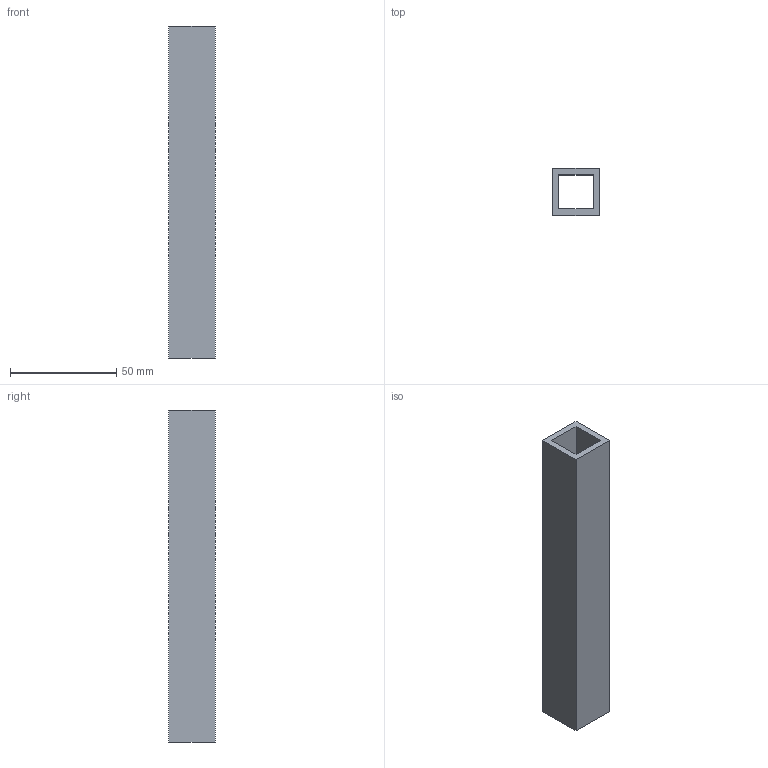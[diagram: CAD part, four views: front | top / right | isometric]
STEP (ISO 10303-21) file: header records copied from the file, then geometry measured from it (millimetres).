
FILE_DESCRIPTION(('Open CASCADE Model'),'2;1');
FILE_NAME('Open CASCADE Shape Model','2026-10-04T01:02:29',('Author'),( 'Open CASCADE'),'Open CASCADE STEP processor 8.0','Open CASCADE 8.0' ,'Unknown');
FILE_SCHEMA(('AUTOMOTIVE_DESIGN { 1 0 10303 214 1 1 1 1 }'));
Length unit declared in the file: millimetre
Products named in the file (1): Open CASCADE STEP translator 8.0 166
Bounding box: 22 x 22 x 156 mm (x, y, z)
Volume: 35568 mm3; surface area: 24168 mm2
Topology: 1 solids, 1 shells, 10 faces, 24 edges, 16 vertices
Faces by surface type: plane 10
Entity records: 598 total; most frequent: CARTESIAN_POINT 115, DIRECTION 78, LINE 56, VECTOR 56, ORIENTED_EDGE 48, PCURVE 48, DEFINITIONAL_REPRESENTATION 48, EDGE_CURVE 24
